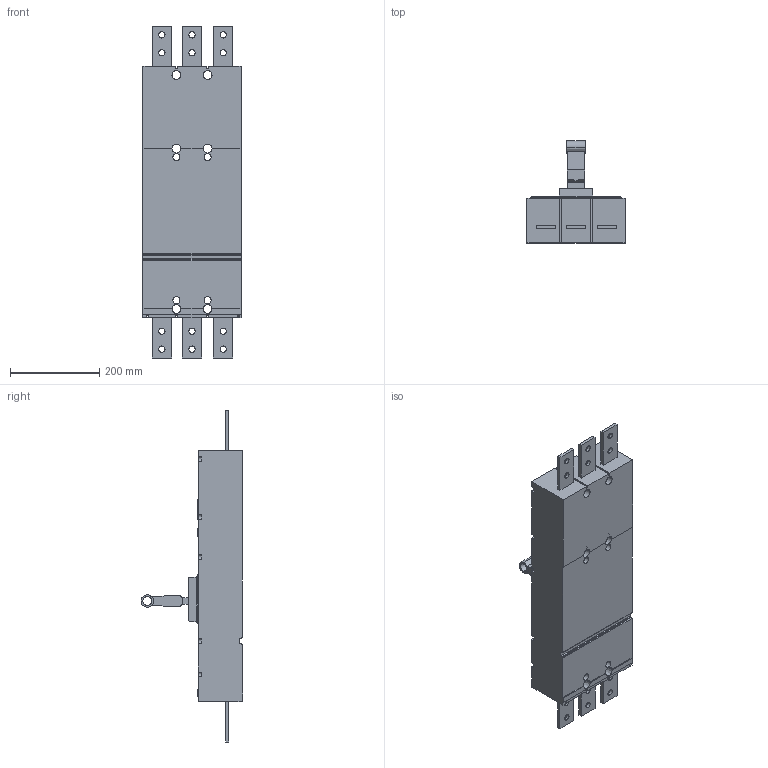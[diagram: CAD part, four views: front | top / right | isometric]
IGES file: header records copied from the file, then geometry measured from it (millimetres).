
Start section:  PTC IGES file: 14-metasol-elcb-1200af-3p.igs
Global section: file name: 14-metasol-elcb-1200af-3p.igs; native system: Pro/ENGINEER by Parametric Technology Corporation; preprocessor: 2010280; author: mgkimb; organization: Unknown; date: 20131029.143132; units: millimetre
Bounding box: 220 x 228.65 x 745 mm (x, y, z)
Surface area: 562044.4 mm2 (no closed solid volume)
Topology: 0 solids, 0 shells, 470 faces, 2514 edges, 2514 vertices
Faces by surface type: bspline 341, revolution 129
